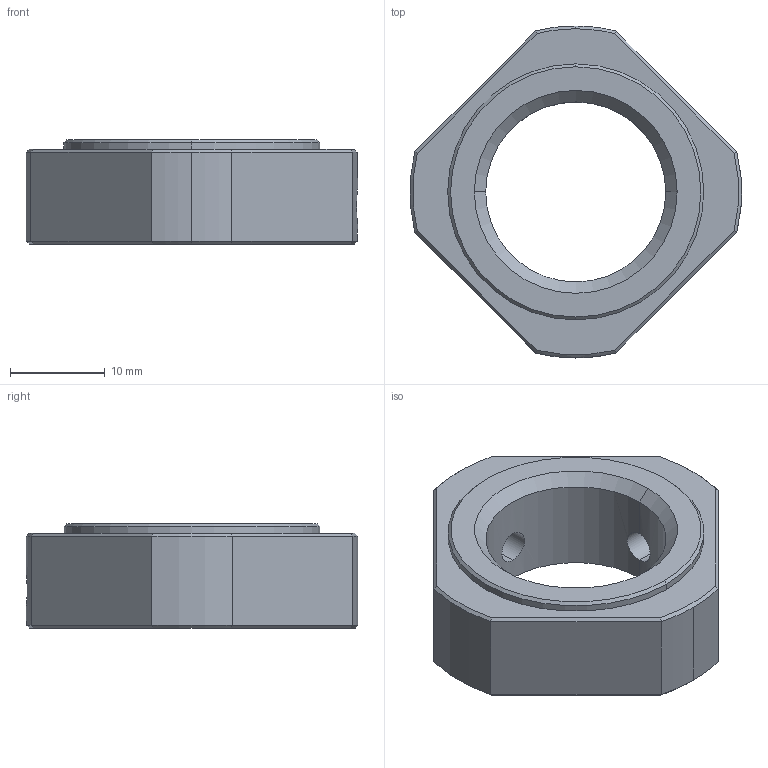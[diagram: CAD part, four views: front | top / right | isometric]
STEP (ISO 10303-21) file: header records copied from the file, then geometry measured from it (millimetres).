
FILE_DESCRIPTION (( 'STEP AP203' ), '1' );
FILE_NAME ('20玛㏕脸碪(家舱篈).STEP', '2013-01-22T02:29:06', ( '' ), ( '' ), 'SwSTEP 2.0', 'SolidWorks 2012', '' );
FILE_SCHEMA (( 'CONFIG_CONTROL_DESIGN' ));
Length unit declared in the file: millimetre
Products named in the file (1): 20鎖固螺帽(模型組態)
Bounding box: 34.94 x 35 x 11 mm (x, y, z)
Volume: 5649.9 mm3; surface area: 2956.7 mm2
Topology: 1 solids, 1 shells, 46 faces, 105 edges, 61 vertices
Faces by surface type: plane 15, cone 14, cylinder 13, bspline 4
Entity records: 1733 total; most frequent: CARTESIAN_POINT 667, ORIENTED_EDGE 210, DIRECTION 192, EDGE_CURVE 105, AXIS2_PLACEMENT_3D 76, VERTEX_POINT 61, EDGE_LOOP 52, FACE_OUTER_BOUND 46
